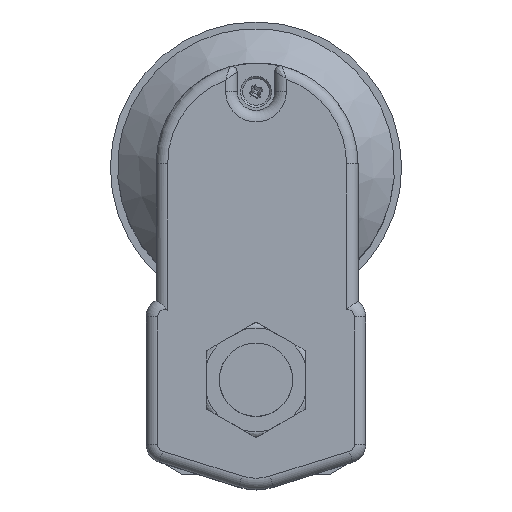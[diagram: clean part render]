
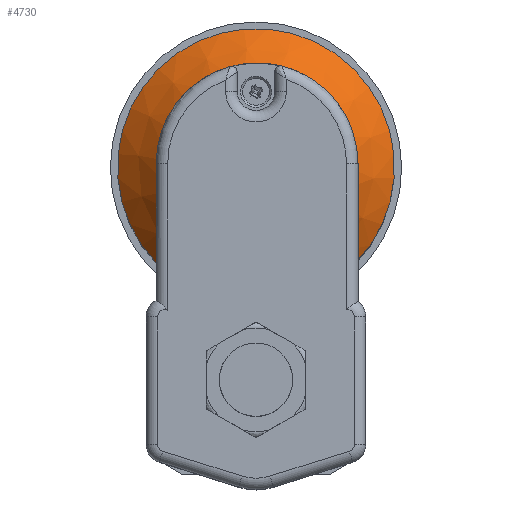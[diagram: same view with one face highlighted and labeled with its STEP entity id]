
A CAD part, top view. The second image highlights one B-rep face of the part: STEP entity #4730.
In plain terms, the highlighted conical face has half-angle 45 degrees and reference radius 48 mm.
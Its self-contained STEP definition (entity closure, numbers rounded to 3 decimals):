
#214 = ORIENTED_EDGE ( 'NONE', *, *, #4471, .F. ) ;
#350 = ORIENTED_EDGE ( 'NONE', *, *, #3245, .T. ) ;
#364 = ORIENTED_EDGE ( 'NONE', *, *, #4459, .T. ) ;
#700 = EDGE_LOOP ( 'NONE', ( #214 ) ) ;
#708 = EDGE_LOOP ( 'NONE', ( #364, #350 ) ) ;
#1198 = CIRCLE ( 'NONE', #3590, 48. ) ;
#1219 = CIRCLE ( 'NONE', #3589, 34. ) ;
#1523 = AXIS2_PLACEMENT_3D ( 'NONE', #6566, #6567, #6558 ) ;
#3245 = EDGE_CURVE ( 'NONE', #7420, #7418, #4876, .T. ) ;
#3589 = AXIS2_PLACEMENT_3D ( 'NONE', #6098, #6099, #6100 ) ;
#3590 = AXIS2_PLACEMENT_3D ( 'NONE', #6068, #6071, #6072 ) ;
#4459 = EDGE_CURVE ( 'NONE', #7418, #7420, #1198, .T. ) ;
#4471 = EDGE_CURVE ( 'NONE', #9592, #9592, #1219, .T. ) ;
#4730 = ADVANCED_FACE ( 'NONE', ( #8471, #8469 ), #8463, .T. ) ;
#4876 = B_SPLINE_CURVE_WITH_KNOTS ( 'NONE', 3,
 ( #5818, #5825, #5826, #5827, #5828, #5829, #5830, #5831, #5832, #5833, #5834, #5835, #5836, #5837, #5838, #5839, #5840, #5841, #5842, #5843, #5844, #5845, #5846, #5847, #5848, #5849 ),
 .UNSPECIFIED., .F., .F.,
 ( 4, 2, 2, 2, 2, 2, 2, 2, 2, 2, 2, 2, 4 ),
 ( 0., 0.004, 0.007, 0.015, 0.018, 0.022, 0.026, 0.029, 0.037, 0.04, 0.044, 0.051, 0.059 ),
 .UNSPECIFIED. ) ;
#5818 = CARTESIAN_POINT ( 'NONE',  ( -27.908, 34.847, 53.5 ) ) ;
#5825 = CARTESIAN_POINT ( 'NONE',  ( -26.826, 34.768, 54.065 ) ) ;
#5826 = CARTESIAN_POINT ( 'NONE',  ( -25.733, 34.688, 54.609 ) ) ;
#5827 = CARTESIAN_POINT ( 'NONE',  ( -23.531, 34.53, 55.644 ) ) ;
#5828 = CARTESIAN_POINT ( 'NONE',  ( -22.421, 34.452, 56.137 ) ) ;
#5829 = CARTESIAN_POINT ( 'NONE',  ( -19.06, 34.223, 57.53 ) ) ;
#5830 = CARTESIAN_POINT ( 'NONE',  ( -16.779, 34.077, 58.344 ) ) ;
#5831 = CARTESIAN_POINT ( 'NONE',  ( -13.28, 33.887, 59.356 ) ) ;
#5832 = CARTESIAN_POINT ( 'NONE',  ( -12.101, 33.829, 59.657 ) ) ;
#5833 = CARTESIAN_POINT ( 'NONE',  ( -9.715, 33.725, 60.183 ) ) ;
#5834 = CARTESIAN_POINT ( 'NONE',  ( -8.505, 33.679, 60.407 ) ) ;
#5835 = CARTESIAN_POINT ( 'NONE',  ( -6.081, 33.605, 60.767 ) ) ;
#5836 = CARTESIAN_POINT ( 'NONE',  ( -4.863, 33.577, 60.903 ) ) ;
#5837 = CARTESIAN_POINT ( 'NONE',  ( -2.415, 33.538, 61.085 ) ) ;
#5838 = CARTESIAN_POINT ( 'NONE',  ( -1.188, 33.529, 61.13 ) ) ;
#5839 = CARTESIAN_POINT ( 'NONE',  ( 2.477, 33.529, 61.127 ) ) ;
#5840 = CARTESIAN_POINT ( 'NONE',  ( 4.908, 33.569, 60.942 ) ) ;
#5841 = CARTESIAN_POINT ( 'NONE',  ( 8.537, 33.68, 60.402 ) ) ;
#5842 = CARTESIAN_POINT ( 'NONE',  ( 9.746, 33.726, 60.177 ) ) ;
#5843 = CARTESIAN_POINT ( 'NONE',  ( 12.13, 33.83, 59.65 ) ) ;
#5844 = CARTESIAN_POINT ( 'NONE',  ( 13.307, 33.888, 59.348 ) ) ;
#5845 = CARTESIAN_POINT ( 'NONE',  ( 16.801, 34.078, 58.337 ) ) ;
#5846 = CARTESIAN_POINT ( 'NONE',  ( 19.078, 34.224, 57.523 ) ) ;
#5847 = CARTESIAN_POINT ( 'NONE',  ( 23.55, 34.529, 55.668 ) ) ;
#5848 = CARTESIAN_POINT ( 'NONE',  ( 25.745, 34.688, 54.629 ) ) ;
#5849 = CARTESIAN_POINT ( 'NONE',  ( 27.908, 34.847, 53.5 ) ) ;
#6068 = CARTESIAN_POINT ( 'NONE',  ( 0., 73.9, 53.5 ) ) ;
#6071 = DIRECTION ( 'NONE',  ( 0., 0., 1. ) ) ;
#6072 = DIRECTION ( 'NONE',  ( 0., -1., 0. ) ) ;
#6098 = CARTESIAN_POINT ( 'NONE',  ( 0., 73.9, 67.5 ) ) ;
#6099 = DIRECTION ( 'NONE',  ( 0., 0., 1. ) ) ;
#6100 = DIRECTION ( 'NONE',  ( 0., -1., 0. ) ) ;
#6558 = DIRECTION ( 'NONE',  ( 0., 1., 0. ) ) ;
#6566 = CARTESIAN_POINT ( 'NONE',  ( 0., 73.9, 53.5 ) ) ;
#6567 = DIRECTION ( 'NONE',  ( 0., 0., -1. ) ) ;
#7418 = VERTEX_POINT ( 'NONE', #9338 ) ;
#7420 = VERTEX_POINT ( 'NONE', #9340 ) ;
#8463 = CONICAL_SURFACE ( 'NONE', #1523, 48., 0.785 ) ;
#8469 = FACE_OUTER_BOUND ( 'NONE', #708, .T. ) ;
#8471 = FACE_BOUND ( 'NONE', #700, .T. ) ;
#9338 = CARTESIAN_POINT ( 'NONE',  ( 27.908, 34.847, 53.5 ) ) ;
#9340 = CARTESIAN_POINT ( 'NONE',  ( -27.908, 34.847, 53.5 ) ) ;
#9592 = VERTEX_POINT ( 'NONE', #9593 ) ;
#9593 = CARTESIAN_POINT ( 'NONE',  ( 0., 39.9, 67.5 ) ) ;
